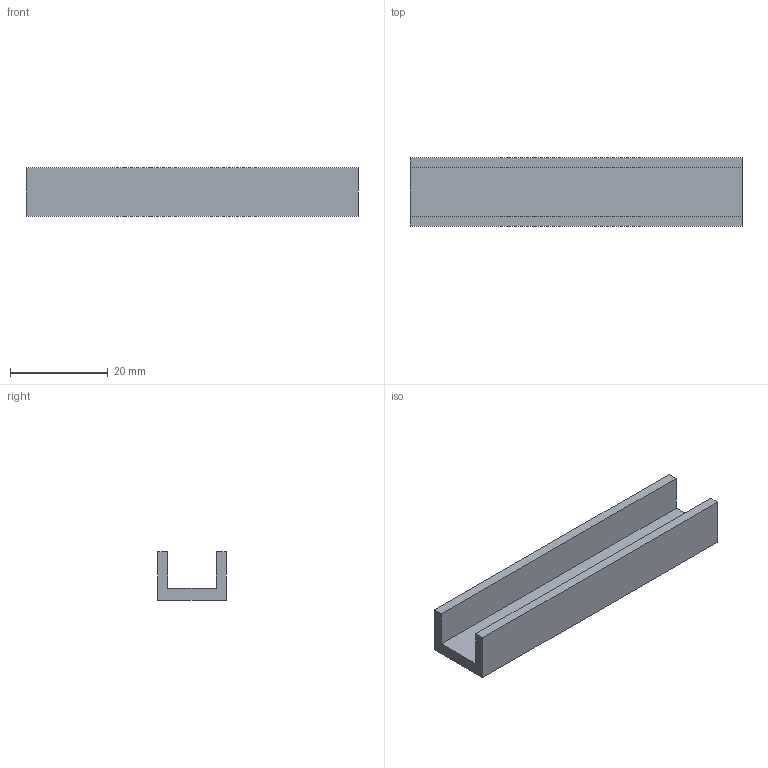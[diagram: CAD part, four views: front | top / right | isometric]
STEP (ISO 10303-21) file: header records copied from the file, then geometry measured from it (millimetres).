
FILE_DESCRIPTION(('Open CASCADE Model'),'2;1');
FILE_NAME('Open CASCADE Shape Model','2026-09-20T05:39:32',('Author'),( 'Open CASCADE'),'Open CASCADE STEP processor 7.9','Open CASCADE 7.9' ,'Unknown');
FILE_SCHEMA(('AUTOMOTIVE_DESIGN { 1 0 10303 214 1 1 1 1 }'));
Length unit declared in the file: millimetre
Products named in the file (1): Open CASCADE STEP translator 7.9 12
Bounding box: 68 x 14 x 10 mm (x, y, z)
Volume: 4420 mm3; surface area: 4414 mm2
Topology: 1 solids, 1 shells, 10 faces, 24 edges, 16 vertices
Faces by surface type: plane 10
Entity records: 594 total; most frequent: CARTESIAN_POINT 115, DIRECTION 78, LINE 56, VECTOR 56, ORIENTED_EDGE 48, PCURVE 48, DEFINITIONAL_REPRESENTATION 48, EDGE_CURVE 24
